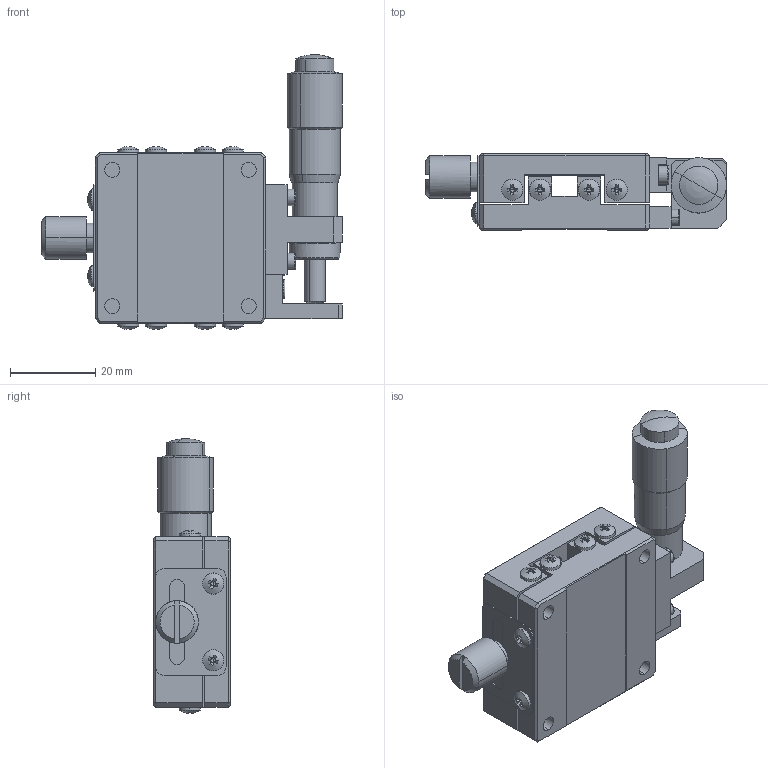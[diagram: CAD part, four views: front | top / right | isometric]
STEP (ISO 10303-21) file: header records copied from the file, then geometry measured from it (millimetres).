
FILE_DESCRIPTION (( 'STEP AP203' ), '1' );
FILE_NAME ('LX40-R.STEP', '2013-07-11T10:28:11', ( 'pengyu' ), ( '' ), 'SwSTEP 2.0', 'SolidWorks 2011', '' );
FILE_SCHEMA (( 'CONFIG_CONTROL_DESIGN' ));
Length unit declared in the file: millimetre
Products named in the file (4): LX40-R; MT13-3-1; L40R-2; L40R-1
Assembly tree (3 placements, depth 2):
  LX40-R
    MT13-3-1
    L40R-2
    L40R-1
Bounding box: 70.6 x 18 x 64.45 mm (x, y, z)
Volume: 32853 mm3; surface area: 18193.8 mm2
Topology: 3 solids, 5 shells, 591 faces, 1513 edges, 933 vertices
Faces by surface type: plane 338, cone 119, cylinder 108, bspline 22, torus 4
Entity records: 18583 total; most frequent: CARTESIAN_POINT 4099, DIRECTION 2955, ORIENTED_EDGE 2938, EDGE_CURVE 1469, AXIS2_PLACEMENT_3D 1109, VERTEX_POINT 933, VECTOR 737, LINE 737
